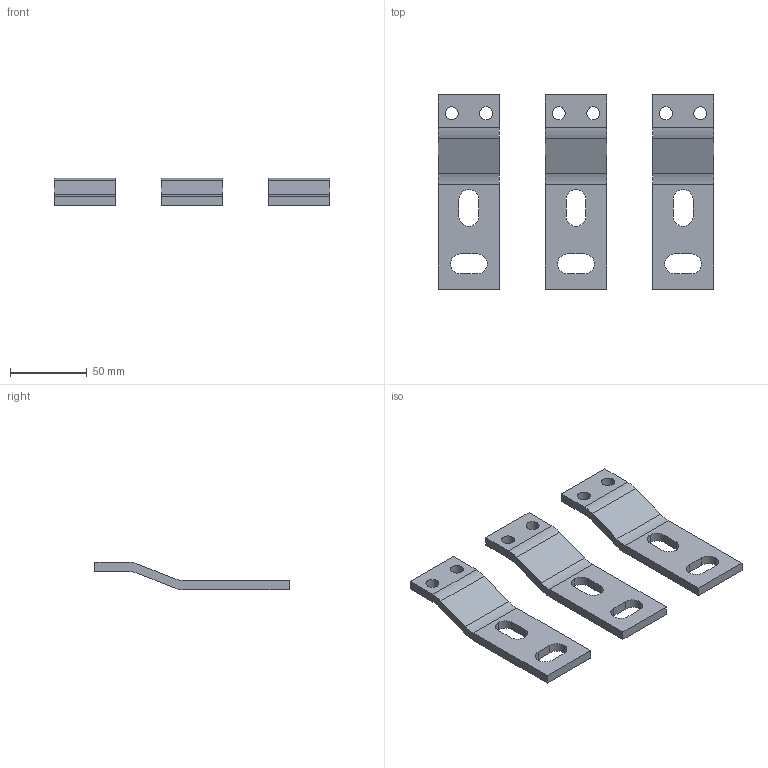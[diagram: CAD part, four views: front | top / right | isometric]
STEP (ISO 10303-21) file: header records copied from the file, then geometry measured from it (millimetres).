
FILE_DESCRIPTION(('FreeCAD Model'),'2;1');
FILE_NAME('Open CASCADE Shape Model','2022-08-23T10:54:43',( 'Engenharia Metaltex'),('Metaltex'), 'Open CASCADE STEP processor 7.5','FreeCAD','Unknown');
FILE_SCHEMA(('AUTOMOTIVE_DESIGN { 1 0 10303 214 1 1 1 1 }'));
Length unit declared in the file: millimetre
Products named in the file (4): DCM-T630; Body087; Body088; Body089
Assembly tree (3 placements, depth 2):
  DCM-T630
    Body087
    Body088
    Body089
Bounding box: 180 x 126.85 x 18 mm (x, y, z)
Volume: 79357.5 mm3; surface area: 36195.2 mm2
Topology: 3 solids, 3 shells, 96 faces, 270 edges, 180 vertices
Faces by surface type: plane 54, cylinder 42
Full cylindrical faces by diameter (mm): 8.5 x6
Entity records: 6876 total; most frequent: CARTESIAN_POINT 1306, DIRECTION 1058, LINE 642, VECTOR 642, ORIENTED_EDGE 540, PCURVE 540, DEFINITIONAL_REPRESENTATION 540, EDGE_CURVE 270
